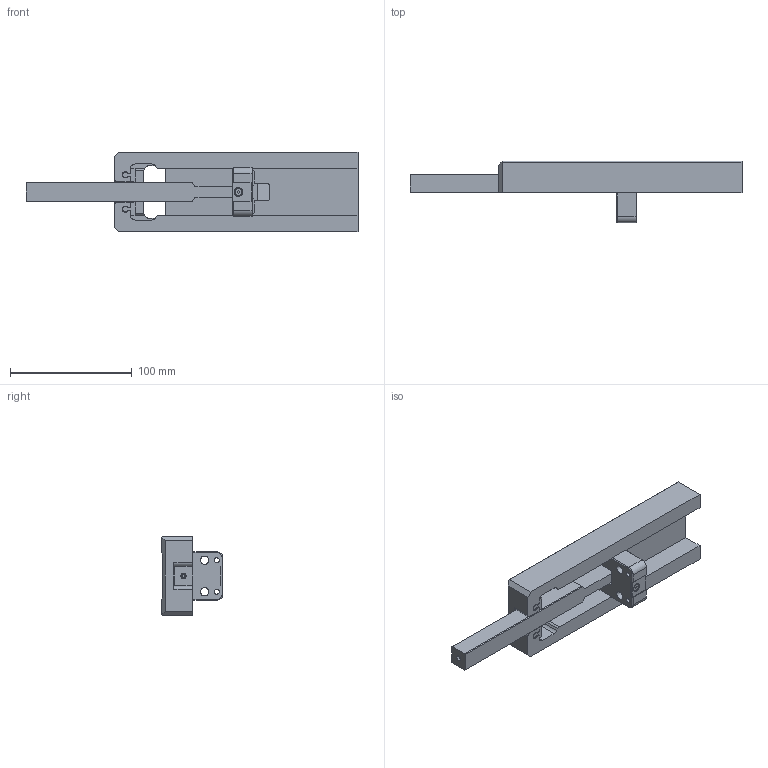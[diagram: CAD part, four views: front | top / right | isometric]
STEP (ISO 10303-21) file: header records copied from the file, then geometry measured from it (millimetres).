
FILE_DESCRIPTION (( 'STEP AP203' ), '1' );
FILE_NAME ('SA-80-200-32.step', '2015-06-16T05:09:59', ( '' ), ( '' ), 'SwSTEP 2.0', 'SolidWorks 2015', '' );
FILE_SCHEMA (( 'CONFIG_CONTROL_DESIGN' ));
Length unit declared in the file: millimetre
Products named in the file (2): SA-80-200-32
Bounding box: 272.66 x 50.7 x 65 mm (x, y, z)
Surface area: 63505.3 mm2 (no closed solid volume)
Topology: 0 solids, 9 shells, 136 faces, 485 edges, 348 vertices
Faces by surface type: plane 97, cylinder 31, cone 8
Full cylindrical faces by diameter (mm): 1.3 x2, 2.5 x1, 4 x2, 4.6 x2, 5.7 x1, 6.8 x2
Entity records: 5234 total; most frequent: CARTESIAN_POINT 989, DIRECTION 831, ORIENTED_EDGE 776, EDGE_CURVE 469, LINE 359, VECTOR 359, VERTEX_POINT 346, AXIS2_PLACEMENT_3D 236
